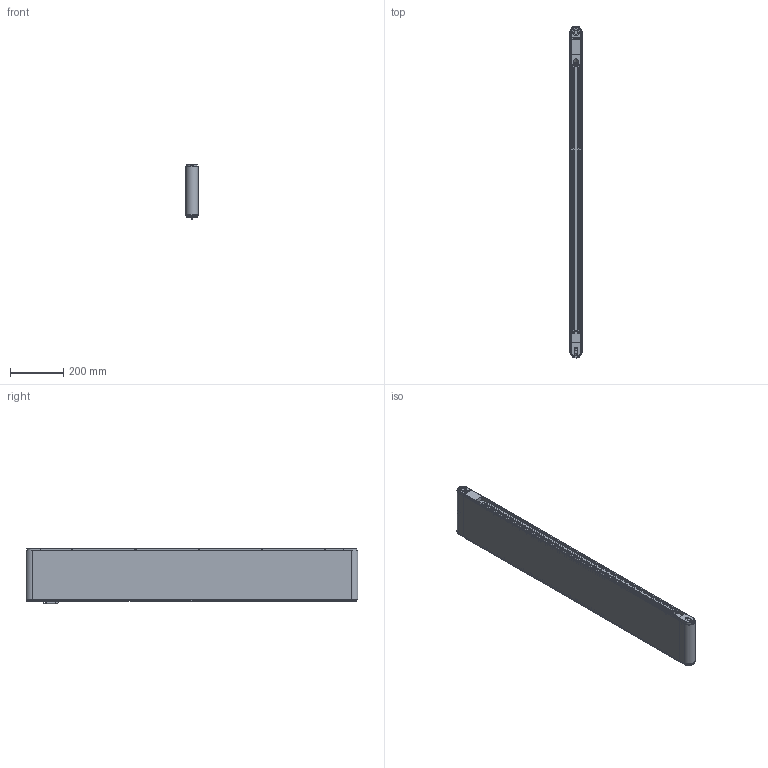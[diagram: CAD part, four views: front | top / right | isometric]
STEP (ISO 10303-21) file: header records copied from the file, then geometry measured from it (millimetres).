
FILE_DESCRIPTION(/* description */ (''),/* implementation_level */ '2;1');
FILE_NAME(/* name */ 'G:\DATEN\CAD\Förderband\Marketing\3D-Modelle (Standard)\FR-40-200\FR-40-200-1200-K.stp',/* time_stamp */ '2019-05-08T09:22:48+02:00',/* author */ ('melanie.ochs'),/* organization */ (''),/* preprocessor_version */ 'ST-DEVELOPER v17',/* originating_system */ 'Autodesk Inventor 2019',/* authorisation */ '');
FILE_SCHEMA (('CONFIG_CONTROL_DESIGN'));
Length unit declared in the file: centimetre
Products named in the file (1): FR-40-200-1200-K
Bounding box: 46.6 x 1246.6 x 208.53 mm (x, y, z)
Volume: 3421152.1 mm3; surface area: 1661920.7 mm2
Topology: 6 solids, 25 shells, 1019 faces, 2789 edges, 1856 vertices
Faces by surface type: plane 521, cylinder 281, bspline 124, cone 68, torus 25
Full cylindrical faces by diameter (mm): 2 x2, 4 x6, 4.3 x4, 4.917 x1, 5 x11, 5.5 x8, 6 x4, 6.5 x1, 6.647 x3, 8 x4, 8.3 x10, 8.5 x8, 8.773 x1, 10 x1, 11 x1, 12 x4, 15 x2, 20 x4, 25 x2, 28 x4
Entity records: 34881 total; most frequent: CARTESIAN_POINT 8286, ORIENTED_EDGE 5554, DIRECTION 5031, EDGE_CURVE 2777, VERTEX_POINT 1856, AXIS2_PLACEMENT_3D 1752, LINE 1527, VECTOR 1527
